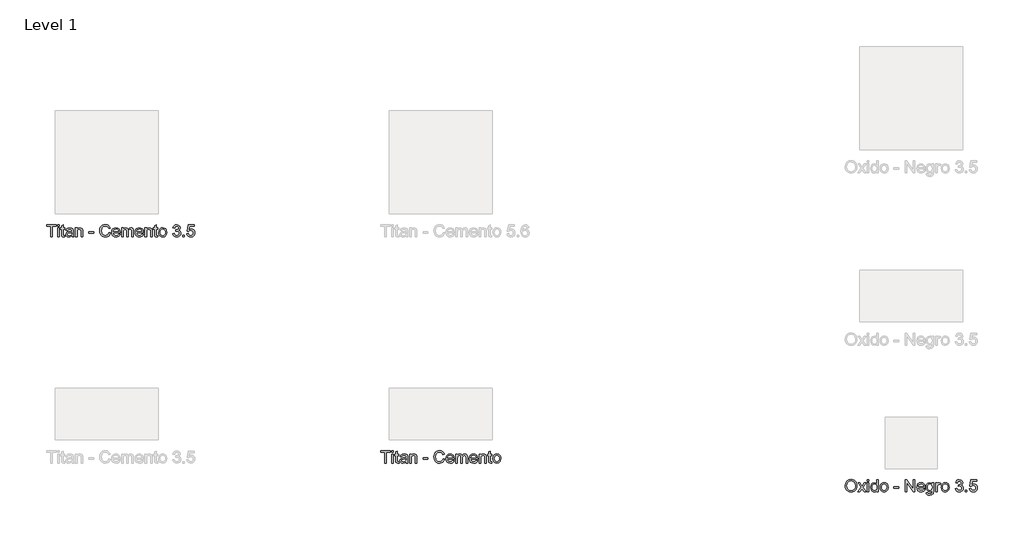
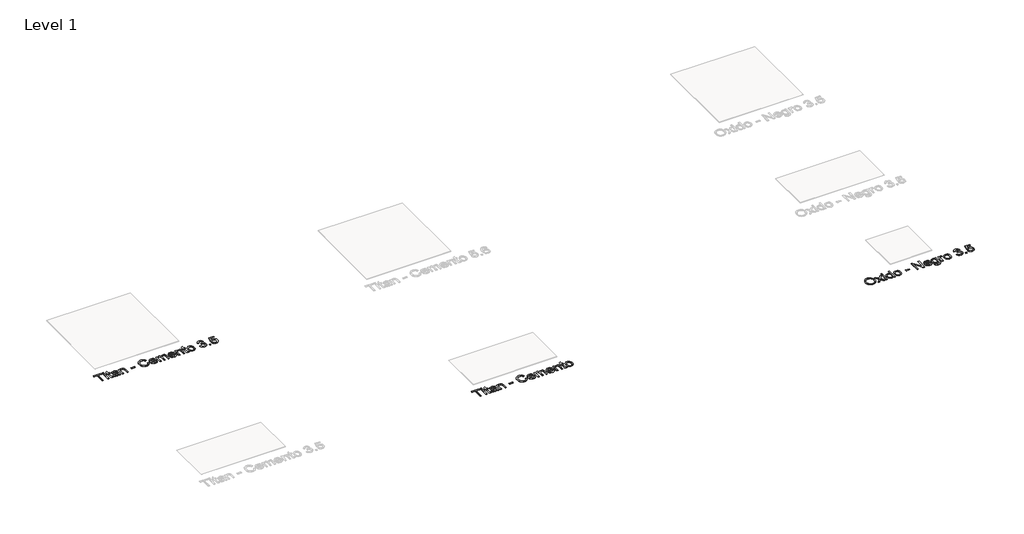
# One storey, part 32 of 80: 3 proxies.
"""IFC4 building model written with IfcOpenShell, lengths in millimetres."""

from ifc_helpers import new_model, si_unit, origin, origin_with_axes, place, context, project, spatial, polyline, outline, extrude, element, save

model = new_model("IFC4")

# Units and contexts
model_context = context("Model", 3, world=origin())
ifc_project = project(units=[si_unit("LENGTHUNIT", "METRE", prefix="MILLI")], contexts=[model_context])

# Site, building, storey
site = spatial("IfcSite", under=ifc_project)
building = spatial("IfcBuilding", under=site)
storey = spatial("IfcBuildingStorey", under=building, Name="Level 1", Elevation=0.0)

# Proxies
placement = place(None, origin())
element("IfcBuildingElementProxy", 1, Name="24\" Arial", ObjectType="24\" Arial", at=placement, inside=storey, context=model_context, shape_type="SweptSolid", body=[
    extrude(outline(polyline([(12694.7700459, -12644.2596438), (12698.7075459, -12618.1322399), (12710.5200459, -12598.365413), (12728.5561036, -12585.9255092), (12751.1642767, -12581.7788746), (12766.6618729, -12583.7259899), (12780.5585075, -12589.5673361), (12792.096969, -12598.8918553), (12800.5200459, -12611.2884899), (12805.6690844, -12626.1586823), (12807.3854306, -12642.9038746), (12805.5789402, -12659.8726246), (12800.159469, -12674.9519515), (12791.4262959, -12687.3702207), (12779.6786998, -12696.3557976), (12765.9010556, -12701.8077207), (12751.0777383, -12703.6250284), (12735.3421613, -12701.6166149), (12721.3661998, -12695.5913746), (12709.8565844, -12686.0937784), (12701.5200459, -12673.6682976), (12696.4575459, -12659.3714226), (12694.7700459, -12644.2596438)]), holes=[polyline([(12709.5392767, -12644.4038746), (12712.4924017, -12662.8870476), (12721.3517767, -12676.9711823), (12734.6678825, -12685.8846438), (12750.9911998, -12688.8557976), (12767.5524979, -12685.8557976), (12780.8902383, -12676.8557976), (12789.6847094, -12662.3389707), (12792.6161998, -12642.7884899), (12787.596969, -12618.4134899), (12781.4202863, -12609.1719034), (12772.9286998, -12602.2740669), (12751.2508152, -12596.5481053), (12735.3637959, -12599.3065188), (12721.8565844, -12607.5817592), (12712.6186036, -12622.3041149), (12709.5392767, -12644.4038746)])]), origin_with_axes(), (0.0, 0.0, 1.0), 2.0),
    extrude(outline(polyline([(12816.6161998, -12701.7788746), (12848.1738921, -12658.1634899), (12818.4623536, -12615.0096438), (12836.2315844, -12615.0096438), (12850.5681229, -12635.7788746), (12857.2604306, -12645.5865669), (12863.0585075, -12637.5673361), (12879.3854306, -12615.0096438), (12897.1546613, -12615.0096438), (12865.9431229, -12658.1634899), (12896.0008152, -12701.7788746), (12878.2315844, -12701.7788746), (12860.1450459, -12675.5577207), (12856.8277383, -12670.7692592), (12834.3854306, -12701.7788746), (12816.6161998, -12701.7788746)])), origin_with_axes(), (0.0, 0.0, 1.0), 2.0),
    extrude(outline(polyline([(12908.9238921, -12598.3942592), (12908.9238921, -12583.6250284), (12923.6931229, -12583.6250284), (12923.6931229, -12598.3942592), (12908.9238921, -12598.3942592)])), origin_with_axes(), (0.0, 0.0, 1.0), 2.0),
    extrude(outline(polyline([(12908.9238921, -12701.7788746), (12908.9238921, -12615.0096438), (12923.6931229, -12615.0096438), (12923.6931229, -12701.7788746), (12908.9238921, -12701.7788746)])), origin_with_axes(), (0.0, 0.0, 1.0), 2.0),
    extrude(outline(polyline([(12999.3854306, -12701.7788746), (12999.3854306, -12687.8461823), (12989.6137959, -12699.6803169), (12976.1065844, -12703.6250284), (12957.8181229, -12697.9134899), (12944.8950459, -12681.9759899), (12940.3085075, -12658.4807976), (12944.534469, -12634.9711823), (12949.8133152, -12625.646663), (12957.1979306, -12618.7884899), (12976.0488921, -12613.1634899), (12989.6642767, -12617.1875284), (12999.3854306, -12627.6442592), (12999.3854306, -12583.6250284), (13014.1546613, -12583.6250284), (13014.1546613, -12701.7788746), (12999.3854306, -12701.7788746)]), holes=[polyline([(12955.0777383, -12658.4231053), (12956.7436036, -12671.7824803), (12961.7411998, -12681.2836823), (12969.003219, -12686.9627688), (12977.4623536, -12688.8557976), (12985.9178825, -12687.0493073), (12992.9960075, -12681.6298361), (12997.7880748, -12672.4964226), (12999.3854306, -12659.5481053), (12997.7592286, -12645.3918553), (12992.8806229, -12635.5769515), (12985.6222094, -12629.8437784), (12976.8565844, -12627.9327207), (12968.3109113, -12629.7680573), (12961.3085075, -12635.2740669), (12956.6354306, -12644.7319996), (12955.0777383, -12658.4231053)])]), origin_with_axes(), (0.0, 0.0, 1.0), 2.0),
    extrude(outline(polyline([(13032.6161998, -12658.3942592), (13035.8109113, -12637.4735861), (13045.3950459, -12622.7692592), (13057.2363921, -12615.5649323), (13071.4142767, -12613.1634899), (13086.9299017, -12616.0877688), (13099.3229306, -12624.8606053), (13107.4467286, -12638.7896919), (13110.1546613, -12657.1827207), (13105.3661998, -12683.4615669), (13091.4190844, -12698.3317592), (13071.4142767, -12703.6250284), (13055.7111517, -12700.7115669), (13043.3325459, -12691.9711823), (13035.2952863, -12677.7500284), (13032.6161998, -12658.3942592)]), holes=[polyline([(13047.3854306, -12658.365413), (13049.0945652, -12671.7319996), (13054.221969, -12681.2548361), (13061.9383152, -12686.9555573), (13071.4142767, -12688.8557976), (13080.846969, -12686.9447399), (13088.5488921, -12681.2115669), (13093.6762959, -12671.5625284), (13095.3854306, -12657.9038746), (13093.6654786, -12644.9267111), (13088.5056229, -12635.5336823), (13080.7928825, -12629.8329611), (13071.4142767, -12627.9327207), (13061.9383152, -12629.8257496), (13054.221969, -12635.5048361), (13049.0945652, -12645.006038), (13047.3854306, -12658.365413)])]), origin_with_axes(), (0.0, 0.0, 1.0), 2.0),
    extrude(outline(polyline([(13165.5392767, -12666.7019515), (13165.5392767, -12651.9327207), (13211.6931229, -12651.9327207), (13211.6931229, -12666.7019515), (13165.5392767, -12666.7019515)])), origin_with_axes(), (0.0, 0.0, 1.0), 2.0),
    extrude(outline(polyline([(13276.3085075, -12701.7788746), (13276.3085075, -12583.6250284), (13292.1161998, -12583.6250284), (13353.846969, -12677.2307976), (13353.846969, -12583.6250284), (13368.6161998, -12583.6250284), (13368.6161998, -12701.7788746), (13352.8085075, -12701.7788746), (13291.0777383, -12608.1442592), (13291.0777383, -12701.7788746), (13276.3085075, -12701.7788746)])), origin_with_axes(), (0.0, 0.0, 1.0), 2.0),
    extrude(outline(polyline([(13453.3661998, -12675.9327207), (13467.846969, -12677.7788746), (13462.6294209, -12688.6899323), (13454.3036998, -12696.8461823), (13443.0573056, -12701.9303169), (13429.0777383, -12703.6250284), (13411.7484113, -12700.7007496), (13398.4142767, -12691.927913), (13389.9118729, -12677.8762303), (13387.0777383, -12659.115413), (13389.940719, -12639.7235861), (13398.5296613, -12625.2211823), (13411.6835075, -12616.177913), (13428.2411998, -12613.1634899), (13444.2832671, -12616.1707015), (13457.1017767, -12625.1923361), (13465.5068248, -12639.6658938), (13468.3085075, -12659.0288746), (13468.221969, -12663.0096438), (13401.846969, -12663.0096438), (13404.4034594, -12674.0649323), (13410.3421613, -12682.1923361), (13418.9130748, -12687.1899323), (13429.3661998, -12688.8557976), (13443.846969, -12685.7692592), (13453.3661998, -12675.9327207)]), holes=[polyline([(13401.846969, -12648.240413), (13453.5392767, -12648.240413), (13447.6258152, -12634.8557976), (13439.0152383, -12629.6634899), (13428.1835075, -12627.9327207), (13409.9960075, -12633.4567592), (13404.2736517, -12639.9146919), (13401.846969, -12648.240413)])]), origin_with_axes(), (0.0, 0.0, 1.0), 2.0),
    extrude(outline(polyline([(13479.3854306, -12709.1634899), (13494.1546613, -12711.0096438), (13498.9431229, -12718.7981053), (13513.2796613, -12722.0865669), (13528.3950459, -12718.365413), (13535.6065844, -12707.9231053), (13536.6161998, -12690.7019515), (13526.2171613, -12699.0096438), (13513.5392767, -12701.7788746), (13498.3121133, -12698.5553169), (13486.9575459, -12688.8846438), (13479.893844, -12674.7067592), (13477.5392767, -12657.9615669), (13481.7652383, -12635.0721438), (13493.9960075, -12618.8750284), (13512.8181229, -12613.1634899), (13525.9936036, -12616.3942592), (13536.6161998, -12626.0865669), (13536.6161998, -12615.0096438), (13551.3854306, -12615.0096438), (13551.3854306, -12689.9231053), (13547.346969, -12718.6106053), (13534.5536998, -12731.9519515), (13512.9911998, -12736.8557976), (13499.2496133, -12735.1286342), (13488.4286998, -12729.9471438), (13481.487594, -12721.2969034), (13479.3854306, -12709.1634899)]), holes=[polyline([(13492.3085075, -12656.9519515), (13493.8842286, -12670.4988265), (13498.6113921, -12679.8125284), (13505.7183633, -12685.2103649), (13514.4335075, -12687.0096438), (13523.0837479, -12685.2211823), (13530.2267767, -12679.8557976), (13535.018844, -12670.6610861), (13536.6161998, -12657.3846438), (13534.971969, -12644.5805573), (13530.0392767, -12635.3606053), (13522.7916806, -12629.7896919), (13514.2027383, -12627.9327207), (13505.768844, -12629.7608457), (13498.6979306, -12635.2452207), (13493.9058633, -12644.3281534), (13492.3085075, -12656.9519515)])]), origin_with_axes(), (0.0, 0.0, 1.0), 2.0),
    extrude(outline(polyline([(13573.5392767, -12701.7788746), (13573.5392767, -12615.0096438), (13586.4623536, -12615.0096438), (13586.4623536, -12627.8461823), (13595.6354306, -12616.0192592), (13604.8661998, -12613.1634899), (13619.6931229, -12617.7211823), (13614.7604306, -12630.9615669), (13604.3758152, -12627.9327207), (13596.0248536, -12630.8461823), (13590.7027383, -12638.9231053), (13588.3085075, -12656.1731053), (13588.3085075, -12701.7788746), (13573.5392767, -12701.7788746)])), origin_with_axes(), (0.0, 0.0, 1.0), 2.0),
    extrude(outline(polyline([(13625.2315844, -12658.3942592), (13628.4262959, -12637.4735861), (13638.0104306, -12622.7692592), (13649.8517767, -12615.5649323), (13664.0296613, -12613.1634899), (13679.5452863, -12616.0877688), (13691.9383152, -12624.8606053), (13700.0621133, -12638.7896919), (13702.7700459, -12657.1827207), (13697.9815844, -12683.4615669), (13684.034469, -12698.3317592), (13664.0296613, -12703.6250284), (13648.3265363, -12700.7115669), (13635.9479306, -12691.9711823), (13627.9106709, -12677.7500284), (13625.2315844, -12658.3942592)]), holes=[polyline([(13640.0008152, -12658.365413), (13641.7099498, -12671.7319996), (13646.8373536, -12681.2548361), (13654.5536998, -12686.9555573), (13664.0296613, -12688.8557976), (13673.4623536, -12686.9447399), (13681.1642767, -12681.2115669), (13686.2916806, -12671.5625284), (13688.0008152, -12657.9038746), (13686.2808633, -12644.9267111), (13681.1210075, -12635.5336823), (13673.4082671, -12629.8329611), (13664.0296613, -12627.9327207), (13654.5536998, -12629.8257496), (13646.8373536, -12635.5048361), (13641.7099498, -12645.006038), (13640.0008152, -12658.365413)])]), origin_with_axes(), (0.0, 0.0, 1.0), 2.0),
    extrude(outline(polyline([(13761.846969, -12670.3942592), (13776.6161998, -12668.5481053), (13784.7652383, -12684.0961823), (13800.0104306, -12688.8557976), (13810.1354306, -12687.2187784), (13817.9527383, -12682.3077207), (13822.9503344, -12674.9807976), (13824.6161998, -12666.0961823), (13822.9647575, -12657.662288), (13818.0104306, -12650.8221438), (13810.5104306, -12646.2896919), (13801.221969, -12644.7788746), (13790.8661998, -12646.3942592), (13792.5104306, -12631.6250284), (13794.8758152, -12631.7981053), (13811.6354306, -12627.5577207), (13817.2171613, -12622.177913), (13819.0777383, -12614.5192592), (13813.6835075, -12602.9663746), (13799.7796613, -12598.3942592), (13785.7027383, -12603.0096438), (13778.4623536, -12616.8557976), (13763.6931229, -12615.0096438), (13768.0416806, -12601.7476246), (13775.7796613, -12591.8461823), (13786.3661998, -12585.6803169), (13799.2604306, -12583.6250284), (13817.0729306, -12587.677913), (13829.534469, -12598.7548361), (13833.846969, -12613.6538746), (13829.7508152, -12627.2692592), (13817.6354306, -12637.0481053), (13826.8806229, -12640.7836823), (13833.7315844, -12647.1442592), (13837.971969, -12655.7836823), (13839.3854306, -12666.3557976), (13836.5585075, -12680.7500284), (13828.0777383, -12692.7788746), (13815.2772575, -12700.9134899), (13799.4911998, -12703.6250284), (13785.2123536, -12701.3101246), (13773.5873536, -12694.365413), (13765.503219, -12683.7428169), (13761.846969, -12670.3942592)])), origin_with_axes(), (0.0, 0.0, 1.0), 2.0),
    extrude(outline(polyline([(13859.6931229, -12701.7788746), (13859.6931229, -12687.0096438), (13874.4623536, -12687.0096438), (13874.4623536, -12701.7788746), (13859.6931229, -12701.7788746)])), origin_with_axes(), (0.0, 0.0, 1.0), 2.0),
    extrude(outline(polyline([(13898.4623536, -12670.3942592), (13913.2315844, -12668.5481053), (13920.6738921, -12683.7644515), (13936.1065844, -12688.8557976), (13946.6931229, -12687.0853649), (13954.6258152, -12681.7740669), (13959.5801421, -12673.5348842), (13961.2315844, -12662.9807976), (13959.6847094, -12653.0432976), (13955.0440844, -12645.4423361), (13947.2736517, -12640.6178169), (13936.3373536, -12639.0096438), (13923.3710075, -12641.5769515), (13915.0777383, -12648.240413), (13900.3085075, -12646.3942592), (13913.2315844, -12585.4711823), (13970.4623536, -12585.4711823), (13970.4623536, -12600.240413), (13925.1738921, -12600.240413), (13918.8565844, -12632.7788746), (13929.4070652, -12626.3750284), (13940.4623536, -12624.240413), (13954.2616325, -12626.8870476), (13965.7171613, -12634.8269515), (13973.4299017, -12646.927913), (13976.0008152, -12662.0577207), (13973.6859113, -12676.8269515), (13966.7411998, -12689.4615669), (13953.4431229, -12700.084163), (13936.0488921, -12703.6250284), (13921.5428825, -12701.349788), (13909.9863921, -12694.5240669), (13902.0645171, -12683.9411342), (13898.4623536, -12670.3942592)])), origin_with_axes(), (0.0, 0.0, 1.0), 2.0),
])
element("IfcBuildingElementProxy", 2, Name="24\" Arial", ObjectType="24\" Arial", at=placement, inside=storey, context=model_context, shape_type="SweptSolid", body=[
    extrude(outline(polyline([(8229.846969, -12422.5921493), (8229.846969, -12319.2075339), (8191.0777383, -12319.2075339), (8191.0777383, -12304.4383031), (8283.3854306, -12304.4383031), (8283.3854306, -12319.2075339), (8244.6161998, -12319.2075339), (8244.6161998, -12422.5921493), (8229.846969, -12422.5921493)])), origin_with_axes(), (0.0, 0.0, 1.0), 2.0),
    extrude(outline(polyline([(8298.1546613, -12422.5921493), (8298.1546613, -12335.8229185), (8312.9238921, -12335.8229185), (8312.9238921, -12422.5921493), (8298.1546613, -12422.5921493)])), origin_with_axes(), (0.0, 0.0, 1.0), 2.0),
    extrude(outline(polyline([(8298.1546613, -12319.2075339), (8298.1546613, -12304.4383031), (8312.9238921, -12304.4383031), (8312.9238921, -12319.2075339), (8298.1546613, -12319.2075339)])), origin_with_axes(), (0.0, 0.0, 1.0), 2.0),
    extrude(outline(polyline([(8366.4623536, -12410.2748416), (8368.3085075, -12423.0248416), (8357.2604306, -12424.4383031), (8344.8854306, -12421.98638), (8338.7123536, -12415.5536877), (8336.9238921, -12398.7940723), (8336.9238921, -12350.5921493), (8325.846969, -12350.5921493), (8325.846969, -12335.8229185), (8336.9238921, -12335.8229185), (8336.9238921, -12314.73638), (8351.6931229, -12306.0536877), (8351.6931229, -12335.8229185), (8366.4623536, -12335.8229185), (8366.4623536, -12350.5921493), (8351.6931229, -12350.5921493), (8351.6931229, -12398.36138), (8352.471969, -12405.9767646), (8354.9960075, -12408.67388), (8360.0296613, -12409.6690723), (8366.4623536, -12410.2748416)])), origin_with_axes(), (0.0, 0.0, 1.0), 2.0),
    extrude(outline(polyline([(8436.6161998, -12411.5152262), (8422.2940844, -12421.5248416), (8406.471969, -12424.4383031), (8394.1294209, -12422.6858993), (8385.0248536, -12417.4286877), (8379.4106709, -12409.4455146), (8377.5392767, -12399.5152262), (8380.3661998, -12387.8325339), (8387.7940844, -12379.3517646), (8398.1354306, -12374.5056108), (8410.9142767, -12372.284457), (8436.5296613, -12367.2075339), (8436.6161998, -12363.9190723), (8432.5488921, -12353.0152262), (8416.221969, -12348.7459954), (8401.2796613, -12351.5873416), (8394.1546613, -12361.6690723), (8379.3854306, -12359.8229185), (8385.7748536, -12345.3998416), (8398.6402383, -12336.9479185), (8418.1258152, -12333.9767646), (8436.0248536, -12336.6017646), (8446.1354306, -12343.1931108), (8450.6642767, -12353.2171493), (8451.3854306, -12366.1402262), (8451.3854306, -12384.5152262), (8452.1354306, -12410.17388), (8455.0777383, -12422.5921493), (8440.3085075, -12422.5921493), (8436.6161998, -12411.5152262)]), holes=[polyline([(8436.6161998, -12381.9767646), (8412.7892767, -12386.5056108), (8400.0825459, -12388.8998416), (8394.3277383, -12392.7940723), (8392.3085075, -12398.4767646), (8396.7075459, -12406.4671493), (8409.6161998, -12409.6690723), (8424.5585075, -12406.1354185), (8434.1931229, -12397.5825339), (8436.5296613, -12386.159457), (8436.6161998, -12381.9767646)])]), origin_with_axes(), (0.0, 0.0, 1.0), 2.0),
    extrude(outline(polyline([(8471.6931229, -12422.5921493), (8471.6931229, -12335.8229185), (8486.4623536, -12335.8229185), (8486.4623536, -12347.9383031), (8497.7556229, -12337.4671493), (8513.1738921, -12333.9767646), (8527.1210075, -12336.7892646), (8536.6402383, -12344.17388), (8541.0681229, -12355.034457), (8541.846969, -12369.3133031), (8541.846969, -12422.5921493), (8527.0777383, -12422.5921493), (8527.0777383, -12371.3036877), (8525.3758152, -12358.23638), (8519.3613921, -12351.3277262), (8509.221969, -12348.7459954), (8493.1979306, -12354.5440723), (8488.1462479, -12362.9455146), (8486.4623536, -12376.5536877), (8486.4623536, -12422.5921493), (8471.6931229, -12422.5921493)])), origin_with_axes(), (0.0, 0.0, 1.0), 2.0),
    extrude(outline(polyline([(8600.9238921, -12387.5152262), (8600.9238921, -12372.7459954), (8647.0777383, -12372.7459954), (8647.0777383, -12387.5152262), (8600.9238921, -12387.5152262)])), origin_with_axes(), (0.0, 0.0, 1.0), 2.0),
    extrude(outline(polyline([(8794.7700459, -12380.5921493), (8809.5392767, -12384.3998416), (8802.7243729, -12401.6101781), (8792.0296613, -12414.1834954), (8777.9815844, -12421.8746012), (8761.1065844, -12424.4383031), (8743.9755748, -12422.4983993), (8730.3710075, -12416.6786877), (8719.9431229, -12407.1810916), (8712.3421613, -12394.2075339), (8707.7015363, -12378.95513), (8706.1546613, -12362.6209954), (8707.9034594, -12345.39263), (8713.1498536, -12330.5152262), (8721.6198056, -12318.4611396), (8733.0392767, -12309.7027262), (8746.5825459, -12304.3697935), (8761.4238921, -12302.5921493), (8777.6174017, -12304.89263), (8791.0056229, -12311.7940723), (8801.1702863, -12322.8709954), (8807.6931229, -12337.6979185), (8792.9238921, -12341.2171493), (8787.8036998, -12330.4467166), (8780.8085075, -12323.0584954), (8771.8517767, -12318.7856589), (8760.846969, -12317.36138), (8748.1618729, -12318.940707), (8737.7411998, -12323.6786877), (8729.8337479, -12331.0777262), (8724.6883152, -12340.6402262), (8720.9238921, -12362.5921493), (8725.3806229, -12388.034457), (8731.0777383, -12397.5356589), (8739.2556229, -12404.2892646), (8759.6354306, -12409.6690723), (8771.9635556, -12407.8373416), (8782.2363921, -12402.3421493), (8789.9924017, -12393.2411877), (8794.7700459, -12380.5921493)])), origin_with_axes(), (0.0, 0.0, 1.0), 2.0),
    extrude(outline(polyline([(8888.7508152, -12396.7459954), (8903.2315844, -12398.5921493), (8898.0140363, -12409.503207), (8889.6883152, -12417.659457), (8878.4419209, -12422.7435916), (8864.4623536, -12424.4383031), (8847.1330267, -12421.5140243), (8833.7988921, -12412.7411877), (8825.2964883, -12398.689505), (8822.4623536, -12379.9286877), (8825.3253344, -12360.5368608), (8833.9142767, -12346.034457), (8847.0681229, -12336.9911877), (8863.6258152, -12333.9767646), (8879.6678825, -12336.9839762), (8892.4863921, -12346.0056108), (8900.8914402, -12360.4791685), (8903.6931229, -12379.8421493), (8903.6065844, -12383.8229185), (8837.2315844, -12383.8229185), (8839.7880748, -12394.878207), (8845.7267767, -12403.0056108), (8854.2976902, -12408.003207), (8864.7508152, -12409.6690723), (8879.2315844, -12406.5825339), (8888.7508152, -12396.7459954)]), holes=[polyline([(8837.2315844, -12369.0536877), (8888.9238921, -12369.0536877), (8883.0104306, -12355.6690723), (8874.3998536, -12350.4767646), (8863.5681229, -12348.7459954), (8845.3806229, -12354.2700339), (8839.6582671, -12360.7279666), (8837.2315844, -12369.0536877)])]), origin_with_axes(), (0.0, 0.0, 1.0), 2.0),
    extrude(outline(polyline([(8918.4623536, -12422.5921493), (8918.4623536, -12335.8229185), (8933.2315844, -12335.8229185), (8933.2315844, -12350.1017646), (8943.3854306, -12338.4046493), (8957.8373536, -12333.9767646), (8972.6354306, -12338.4911877), (8980.7700459, -12351.1402262), (8992.2940844, -12338.26763), (9006.846969, -12333.9767646), (9017.9491325, -12335.7616204), (9026.159469, -12341.1161877), (9031.2327863, -12350.1846973), (9032.9238921, -12363.11138), (9032.9238921, -12422.5921493), (9018.1546613, -12422.5921493), (9018.1546613, -12369.4575339), (9016.784469, -12357.1258031), (9011.8229306, -12351.0536877), (9003.3854306, -12348.7459954), (8995.3842286, -12350.2243608), (8988.8613921, -12354.659457), (8984.5236517, -12362.3541685), (8983.0777383, -12373.61138), (8983.0777383, -12422.5921493), (8968.3085075, -12422.5921493), (8968.3085075, -12367.8133031), (8964.8902383, -12353.5056108), (8953.6835075, -12348.7459954), (8942.7508152, -12351.9190723), (8935.4815844, -12361.2075339), (8933.2315844, -12378.8325339), (8933.2315844, -12422.5921493), (8918.4623536, -12422.5921493)])), origin_with_axes(), (0.0, 0.0, 1.0), 2.0),
    extrude(outline(polyline([(9115.8277383, -12396.7459954), (9130.3085075, -12398.5921493), (9125.0909594, -12409.503207), (9116.7652383, -12417.659457), (9105.518844, -12422.7435916), (9091.5392767, -12424.4383031), (9074.2099498, -12421.5140243), (9060.8758152, -12412.7411877), (9052.3734113, -12398.689505), (9049.5392767, -12379.9286877), (9052.4022575, -12360.5368608), (9060.9911998, -12346.034457), (9074.1450459, -12336.9911877), (9090.7027383, -12333.9767646), (9106.7448056, -12336.9839762), (9119.5633152, -12346.0056108), (9127.9683633, -12360.4791685), (9130.7700459, -12379.8421493), (9130.6835075, -12383.8229185), (9064.3085075, -12383.8229185), (9066.8649979, -12394.878207), (9072.8036998, -12403.0056108), (9081.3746133, -12408.003207), (9091.8277383, -12409.6690723), (9106.3085075, -12406.5825339), (9115.8277383, -12396.7459954)]), holes=[polyline([(9064.3085075, -12369.0536877), (9116.0008152, -12369.0536877), (9110.0873536, -12355.6690723), (9101.4767767, -12350.4767646), (9090.6450459, -12348.7459954), (9072.4575459, -12354.2700339), (9066.7351902, -12360.7279666), (9064.3085075, -12369.0536877)])]), origin_with_axes(), (0.0, 0.0, 1.0), 2.0),
    extrude(outline(polyline([(9145.5392767, -12422.5921493), (9145.5392767, -12335.8229185), (9160.3085075, -12335.8229185), (9160.3085075, -12347.9383031), (9171.6017767, -12337.4671493), (9187.0200459, -12333.9767646), (9200.9671613, -12336.7892646), (9210.4863921, -12344.17388), (9214.9142767, -12355.034457), (9215.6931229, -12369.3133031), (9215.6931229, -12422.5921493), (9200.9238921, -12422.5921493), (9200.9238921, -12371.3036877), (9199.221969, -12358.23638), (9193.2075459, -12351.3277262), (9183.0681229, -12348.7459954), (9167.0440844, -12354.5440723), (9161.9924017, -12362.9455146), (9160.3085075, -12376.5536877), (9160.3085075, -12422.5921493), (9145.5392767, -12422.5921493)])), origin_with_axes(), (0.0, 0.0, 1.0), 2.0),
    extrude(outline(polyline([(9267.3854306, -12410.2748416), (9269.2315844, -12423.0248416), (9258.1835075, -12424.4383031), (9245.8085075, -12421.98638), (9239.6354306, -12415.5536877), (9237.846969, -12398.7940723), (9237.846969, -12350.5921493), (9226.7700459, -12350.5921493), (9226.7700459, -12335.8229185), (9237.846969, -12335.8229185), (9237.846969, -12314.73638), (9252.6161998, -12306.0536877), (9252.6161998, -12335.8229185), (9267.3854306, -12335.8229185), (9267.3854306, -12350.5921493), (9252.6161998, -12350.5921493), (9252.6161998, -12398.36138), (9253.3950459, -12405.9767646), (9255.9190844, -12408.67388), (9260.9527383, -12409.6690723), (9267.3854306, -12410.2748416)])), origin_with_axes(), (0.0, 0.0, 1.0), 2.0),
    extrude(outline(polyline([(9278.4623536, -12379.2075339), (9281.6570652, -12358.2868608), (9291.2411998, -12343.5825339), (9303.0825459, -12336.378207), (9317.2604306, -12333.9767646), (9332.7760556, -12336.9010435), (9345.1690844, -12345.67388), (9353.2928825, -12359.6029666), (9356.0008152, -12377.9959954), (9351.2123536, -12404.2748416), (9337.2652383, -12419.1450339), (9317.2604306, -12424.4383031), (9301.5573056, -12421.5248416), (9289.1786998, -12412.784457), (9281.1414402, -12398.5633031), (9278.4623536, -12379.2075339)]), holes=[polyline([(9293.2315844, -12379.1786877), (9294.940719, -12392.5452743), (9300.0681229, -12402.0681108), (9307.784469, -12407.768832), (9317.2604306, -12409.6690723), (9326.6931229, -12407.7580146), (9334.3950459, -12402.0248416), (9339.5224498, -12392.3758031), (9341.2315844, -12378.7171493), (9339.5116325, -12365.7399858), (9334.3517767, -12356.346957), (9326.6390363, -12350.6462358), (9317.2604306, -12348.7459954), (9307.784469, -12350.6390243), (9300.0681229, -12356.3181108), (9294.940719, -12365.8193127), (9293.2315844, -12379.1786877)])]), origin_with_axes(), (0.0, 0.0, 1.0), 2.0),
])
element("IfcBuildingElementProxy", 3, Name="24\" Arial", ObjectType="24\" Arial", at=placement, inside=storey, context=model_context, shape_type="SweptSolid", body=[
    extrude(outline(polyline([(4989.846969, -10230.2191462), (4989.846969, -10126.8345308), (4951.0777383, -10126.8345308), (4951.0777383, -10112.0653001), (5043.3854306, -10112.0653001), (5043.3854306, -10126.8345308), (5004.6161998, -10126.8345308), (5004.6161998, -10230.2191462), (4989.846969, -10230.2191462)])), origin_with_axes(), (0.0, 0.0, 1.0), 2.0),
    extrude(outline(polyline([(5058.1546613, -10230.2191462), (5058.1546613, -10143.4499154), (5072.9238921, -10143.4499154), (5072.9238921, -10230.2191462), (5058.1546613, -10230.2191462)])), origin_with_axes(), (0.0, 0.0, 1.0), 2.0),
    extrude(outline(polyline([(5058.1546613, -10126.8345308), (5058.1546613, -10112.0653001), (5072.9238921, -10112.0653001), (5072.9238921, -10126.8345308), (5058.1546613, -10126.8345308)])), origin_with_axes(), (0.0, 0.0, 1.0), 2.0),
    extrude(outline(polyline([(5126.4623536, -10217.9018385), (5128.3085075, -10230.6518385), (5117.2604306, -10232.0653001), (5104.8854306, -10229.613377), (5098.7123536, -10223.1806847), (5096.9238921, -10206.4210693), (5096.9238921, -10158.2191462), (5085.846969, -10158.2191462), (5085.846969, -10143.4499154), (5096.9238921, -10143.4499154), (5096.9238921, -10122.363377), (5111.6931229, -10113.6806847), (5111.6931229, -10143.4499154), (5126.4623536, -10143.4499154), (5126.4623536, -10158.2191462), (5111.6931229, -10158.2191462), (5111.6931229, -10205.988377), (5112.471969, -10213.6037616), (5114.9960075, -10216.300877), (5120.0296613, -10217.2960693), (5126.4623536, -10217.9018385)])), origin_with_axes(), (0.0, 0.0, 1.0), 2.0),
    extrude(outline(polyline([(5196.6161998, -10219.1422231), (5182.2940844, -10229.1518385), (5166.471969, -10232.0653001), (5154.1294209, -10230.3128962), (5145.0248536, -10225.0556847), (5139.4106709, -10217.0725116), (5137.5392767, -10207.1422231), (5140.3661998, -10195.4595308), (5147.7940844, -10186.9787616), (5158.1354306, -10182.1326077), (5170.9142767, -10179.9114539), (5196.5296613, -10174.8345308), (5196.6161998, -10171.5460693), (5192.5488921, -10160.6422231), (5176.221969, -10156.3729924), (5161.2796613, -10159.2143385), (5154.1546613, -10169.2960693), (5139.3854306, -10167.4499154), (5145.7748536, -10153.0268385), (5158.6402383, -10144.5749154), (5178.1258152, -10141.6037616), (5196.0248536, -10144.2287616), (5206.1354306, -10150.8201077), (5210.6642767, -10160.8441462), (5211.3854306, -10173.7672231), (5211.3854306, -10192.1422231), (5212.1354306, -10217.800877), (5215.0777383, -10230.2191462), (5200.3085075, -10230.2191462), (5196.6161998, -10219.1422231)]), holes=[polyline([(5196.6161998, -10189.6037616), (5172.7892767, -10194.1326077), (5160.0825459, -10196.5268385), (5154.3277383, -10200.4210693), (5152.3085075, -10206.1037616), (5156.7075459, -10214.0941462), (5169.6161998, -10217.2960693), (5184.5585075, -10213.7624154), (5194.1931229, -10205.2095308), (5196.5296613, -10193.7864539), (5196.6161998, -10189.6037616)])]), origin_with_axes(), (0.0, 0.0, 1.0), 2.0),
    extrude(outline(polyline([(5231.6931229, -10230.2191462), (5231.6931229, -10143.4499154), (5246.4623536, -10143.4499154), (5246.4623536, -10155.5653001), (5257.7556229, -10145.0941462), (5273.1738921, -10141.6037616), (5287.1210075, -10144.4162616), (5296.6402383, -10151.800877), (5301.0681229, -10162.6614539), (5301.846969, -10176.9403001), (5301.846969, -10230.2191462), (5287.0777383, -10230.2191462), (5287.0777383, -10178.9306847), (5285.3758152, -10165.863377), (5279.3613921, -10158.9547231), (5269.221969, -10156.3729924), (5253.1979306, -10162.1710693), (5248.1462479, -10170.5725116), (5246.4623536, -10184.1806847), (5246.4623536, -10230.2191462), (5231.6931229, -10230.2191462)])), origin_with_axes(), (0.0, 0.0, 1.0), 2.0),
    extrude(outline(polyline([(5360.9238921, -10195.1422231), (5360.9238921, -10180.3729924), (5407.0777383, -10180.3729924), (5407.0777383, -10195.1422231), (5360.9238921, -10195.1422231)])), origin_with_axes(), (0.0, 0.0, 1.0), 2.0),
    extrude(outline(polyline([(5554.7700459, -10188.2191462), (5569.5392767, -10192.0268385), (5562.7243729, -10209.2371751), (5552.0296613, -10221.8104924), (5537.9815844, -10229.5015981), (5521.1065844, -10232.0653001), (5503.9755748, -10230.1253962), (5490.3710075, -10224.3056847), (5479.9431229, -10214.8080885), (5472.3421613, -10201.8345308), (5467.7015363, -10186.582127), (5466.1546613, -10170.2479924), (5467.9034594, -10153.019627), (5473.1498536, -10138.1422231), (5481.6198056, -10126.0881366), (5493.0392767, -10117.3297231), (5506.5825459, -10111.9967904), (5521.4238921, -10110.2191462), (5537.6174017, -10112.519627), (5551.0056229, -10119.4210693), (5561.1702863, -10130.4979924), (5567.6931229, -10145.3249154), (5552.9238921, -10148.8441462), (5547.8036998, -10138.0737135), (5540.8085075, -10130.6854924), (5531.8517767, -10126.4126558), (5520.846969, -10124.988377), (5508.1618729, -10126.5677039), (5497.7411998, -10131.3056847), (5489.8337479, -10138.7047231), (5484.6883152, -10148.2672231), (5480.9238921, -10170.2191462), (5485.3806229, -10195.6614539), (5491.0777383, -10205.1626558), (5499.2556229, -10211.9162616), (5519.6354306, -10217.2960693), (5531.9635556, -10215.4643385), (5542.2363921, -10209.9691462), (5549.9924017, -10200.8681847), (5554.7700459, -10188.2191462)])), origin_with_axes(), (0.0, 0.0, 1.0), 2.0),
    extrude(outline(polyline([(5648.7508152, -10204.3729924), (5663.2315844, -10206.2191462), (5658.0140363, -10217.1302039), (5649.6883152, -10225.2864539), (5638.4419209, -10230.3705885), (5624.4623536, -10232.0653001), (5607.1330267, -10229.1410212), (5593.7988921, -10220.3681847), (5585.2964883, -10206.316502), (5582.4623536, -10187.5556847), (5585.3253344, -10168.1638577), (5593.9142767, -10153.6614539), (5607.0681229, -10144.6181847), (5623.6258152, -10141.6037616), (5639.6678825, -10144.6109731), (5652.4863921, -10153.6326077), (5660.8914402, -10168.1061654), (5663.6931229, -10187.4691462), (5663.6065844, -10191.4499154), (5597.2315844, -10191.4499154), (5599.7880748, -10202.5052039), (5605.7267767, -10210.6326077), (5614.2976902, -10215.6302039), (5624.7508152, -10217.2960693), (5639.2315844, -10214.2095308), (5648.7508152, -10204.3729924)]), holes=[polyline([(5597.2315844, -10176.6806847), (5648.9238921, -10176.6806847), (5643.0104306, -10163.2960693), (5634.3998536, -10158.1037616), (5623.5681229, -10156.3729924), (5605.3806229, -10161.8970308), (5599.6582671, -10168.3549635), (5597.2315844, -10176.6806847)])]), origin_with_axes(), (0.0, 0.0, 1.0), 2.0),
    extrude(outline(polyline([(5678.4623536, -10230.2191462), (5678.4623536, -10143.4499154), (5693.2315844, -10143.4499154), (5693.2315844, -10157.7287616), (5703.3854306, -10146.0316462), (5717.8373536, -10141.6037616), (5732.6354306, -10146.1181847), (5740.7700459, -10158.7672231), (5752.2940844, -10145.894627), (5766.846969, -10141.6037616), (5777.9491325, -10143.3886174), (5786.159469, -10148.7431847), (5791.2327863, -10157.8116943), (5792.9238921, -10170.738377), (5792.9238921, -10230.2191462), (5778.1546613, -10230.2191462), (5778.1546613, -10177.0845308), (5776.784469, -10164.7528001), (5771.8229306, -10158.6806847), (5763.3854306, -10156.3729924), (5755.3842286, -10157.8513577), (5748.8613921, -10162.2864539), (5744.5236517, -10169.9811654), (5743.0777383, -10181.238377), (5743.0777383, -10230.2191462), (5728.3085075, -10230.2191462), (5728.3085075, -10175.4403001), (5724.8902383, -10161.1326077), (5713.6835075, -10156.3729924), (5702.7508152, -10159.5460693), (5695.4815844, -10168.8345308), (5693.2315844, -10186.4595308), (5693.2315844, -10230.2191462), (5678.4623536, -10230.2191462)])), origin_with_axes(), (0.0, 0.0, 1.0), 2.0),
    extrude(outline(polyline([(5875.8277383, -10204.3729924), (5890.3085075, -10206.2191462), (5885.0909594, -10217.1302039), (5876.7652383, -10225.2864539), (5865.518844, -10230.3705885), (5851.5392767, -10232.0653001), (5834.2099498, -10229.1410212), (5820.8758152, -10220.3681847), (5812.3734113, -10206.316502), (5809.5392767, -10187.5556847), (5812.4022575, -10168.1638577), (5820.9911998, -10153.6614539), (5834.1450459, -10144.6181847), (5850.7027383, -10141.6037616), (5866.7448056, -10144.6109731), (5879.5633152, -10153.6326077), (5887.9683633, -10168.1061654), (5890.7700459, -10187.4691462), (5890.6835075, -10191.4499154), (5824.3085075, -10191.4499154), (5826.8649979, -10202.5052039), (5832.8036998, -10210.6326077), (5841.3746133, -10215.6302039), (5851.8277383, -10217.2960693), (5866.3085075, -10214.2095308), (5875.8277383, -10204.3729924)]), holes=[polyline([(5824.3085075, -10176.6806847), (5876.0008152, -10176.6806847), (5870.0873536, -10163.2960693), (5861.4767767, -10158.1037616), (5850.6450459, -10156.3729924), (5832.4575459, -10161.8970308), (5826.7351902, -10168.3549635), (5824.3085075, -10176.6806847)])]), origin_with_axes(), (0.0, 0.0, 1.0), 2.0),
    extrude(outline(polyline([(5905.5392767, -10230.2191462), (5905.5392767, -10143.4499154), (5920.3085075, -10143.4499154), (5920.3085075, -10155.5653001), (5931.6017767, -10145.0941462), (5947.0200459, -10141.6037616), (5960.9671613, -10144.4162616), (5970.4863921, -10151.800877), (5974.9142767, -10162.6614539), (5975.6931229, -10176.9403001), (5975.6931229, -10230.2191462), (5960.9238921, -10230.2191462), (5960.9238921, -10178.9306847), (5959.221969, -10165.863377), (5953.2075459, -10158.9547231), (5943.0681229, -10156.3729924), (5927.0440844, -10162.1710693), (5921.9924017, -10170.5725116), (5920.3085075, -10184.1806847), (5920.3085075, -10230.2191462), (5905.5392767, -10230.2191462)])), origin_with_axes(), (0.0, 0.0, 1.0), 2.0),
    extrude(outline(polyline([(6027.3854306, -10217.9018385), (6029.2315844, -10230.6518385), (6018.1835075, -10232.0653001), (6005.8085075, -10229.613377), (5999.6354306, -10223.1806847), (5997.846969, -10206.4210693), (5997.846969, -10158.2191462), (5986.7700459, -10158.2191462), (5986.7700459, -10143.4499154), (5997.846969, -10143.4499154), (5997.846969, -10122.363377), (6012.6161998, -10113.6806847), (6012.6161998, -10143.4499154), (6027.3854306, -10143.4499154), (6027.3854306, -10158.2191462), (6012.6161998, -10158.2191462), (6012.6161998, -10205.988377), (6013.3950459, -10213.6037616), (6015.9190844, -10216.300877), (6020.9527383, -10217.2960693), (6027.3854306, -10217.9018385)])), origin_with_axes(), (0.0, 0.0, 1.0), 2.0),
    extrude(outline(polyline([(6038.4623536, -10186.8345308), (6041.6570652, -10165.9138577), (6051.2411998, -10151.2095308), (6063.0825459, -10144.0052039), (6077.2604306, -10141.6037616), (6092.7760556, -10144.5280404), (6105.1690844, -10153.300877), (6113.2928825, -10167.2299635), (6116.0008152, -10185.6229924), (6111.2123536, -10211.9018385), (6097.2652383, -10226.7720308), (6077.2604306, -10232.0653001), (6061.5573056, -10229.1518385), (6049.1786998, -10220.4114539), (6041.1414402, -10206.1903001), (6038.4623536, -10186.8345308)]), holes=[polyline([(6053.2315844, -10186.8056847), (6054.940719, -10200.1722712), (6060.0681229, -10209.6951077), (6067.784469, -10215.3958289), (6077.2604306, -10217.2960693), (6086.6931229, -10215.3850116), (6094.3950459, -10209.6518385), (6099.5224498, -10200.0028001), (6101.2315844, -10186.3441462), (6099.5116325, -10173.3669827), (6094.3517767, -10163.9739539), (6086.6390363, -10158.2732327), (6077.2604306, -10156.3729924), (6067.784469, -10158.2660212), (6060.0681229, -10163.9451077), (6054.940719, -10173.4463097), (6053.2315844, -10186.8056847)])]), origin_with_axes(), (0.0, 0.0, 1.0), 2.0),
    extrude(outline(polyline([(6175.0777383, -10198.8345308), (6189.846969, -10196.988377), (6197.9960075, -10212.5364539), (6213.2411998, -10217.2960693), (6223.3661998, -10215.6590501), (6231.1835075, -10210.7479924), (6236.1811036, -10203.4210693), (6237.846969, -10194.5364539), (6236.1955267, -10186.1025597), (6231.2411998, -10179.2624154), (6223.7411998, -10174.7299635), (6214.4527383, -10173.2191462), (6204.096969, -10174.8345308), (6205.7411998, -10160.0653001), (6208.1065844, -10160.238377), (6224.8661998, -10155.9979924), (6230.4479306, -10150.6181847), (6232.3085075, -10142.9595308), (6226.9142767, -10131.4066462), (6213.0104306, -10126.8345308), (6198.9335075, -10131.4499154), (6191.6931229, -10145.2960693), (6176.9238921, -10143.4499154), (6181.2724498, -10130.1878962), (6189.0104306, -10120.2864539), (6199.596969, -10114.1205885), (6212.4911998, -10112.0653001), (6230.3036998, -10116.1181847), (6242.7652383, -10127.1951077), (6247.0777383, -10142.0941462), (6242.9815844, -10155.7095308), (6230.8661998, -10165.488377), (6240.1113921, -10169.2239539), (6246.9623536, -10175.5845308), (6251.2027383, -10184.2239539), (6252.6161998, -10194.7960693), (6249.7892767, -10209.1903001), (6241.3085075, -10221.2191462), (6228.5080267, -10229.3537616), (6212.721969, -10232.0653001), (6198.4431229, -10229.7503962), (6186.8181229, -10222.8056847), (6178.7339883, -10212.1830885), (6175.0777383, -10198.8345308)])), origin_with_axes(), (0.0, 0.0, 1.0), 2.0),
    extrude(outline(polyline([(6272.9238921, -10230.2191462), (6272.9238921, -10215.4499154), (6287.6931229, -10215.4499154), (6287.6931229, -10230.2191462), (6272.9238921, -10230.2191462)])), origin_with_axes(), (0.0, 0.0, 1.0), 2.0),
    extrude(outline(polyline([(6311.6931229, -10198.8345308), (6326.4623536, -10196.988377), (6333.9046613, -10212.2047231), (6349.3373536, -10217.2960693), (6359.9238921, -10215.5256366), (6367.8565844, -10210.2143385), (6372.8109113, -10201.9751558), (6374.4623536, -10191.4210693), (6372.9154786, -10181.4835693), (6368.2748536, -10173.8826077), (6360.5044209, -10169.0580885), (6349.5681229, -10167.4499154), (6336.6017767, -10170.0172231), (6328.3085075, -10176.6806847), (6313.5392767, -10174.8345308), (6326.4623536, -10113.9114539), (6383.6931229, -10113.9114539), (6383.6931229, -10128.6806847), (6338.4046613, -10128.6806847), (6332.0873536, -10161.2191462), (6342.6378344, -10154.8153001), (6353.6931229, -10152.6806847), (6367.4924017, -10155.3273193), (6378.9479306, -10163.2672231), (6386.6606709, -10175.3681847), (6389.2315844, -10190.4979924), (6386.9166806, -10205.2672231), (6379.971969, -10217.9018385), (6366.6738921, -10228.5244347), (6349.2796613, -10232.0653001), (6334.7736517, -10229.7900597), (6323.2171613, -10222.9643385), (6315.2952863, -10212.3814058), (6311.6931229, -10198.8345308)])), origin_with_axes(), (0.0, 0.0, 1.0), 2.0),
])

save(model, "model.ifc")
